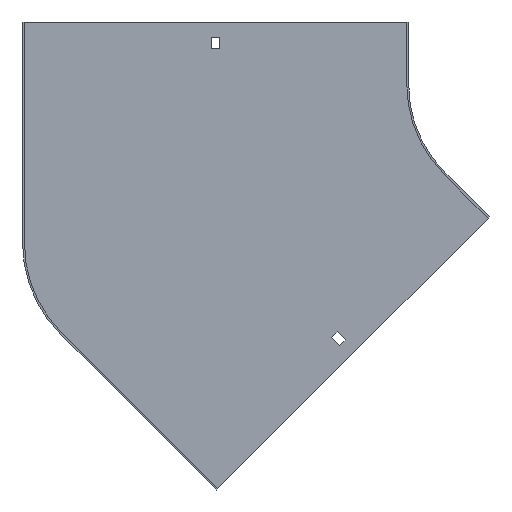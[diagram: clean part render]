
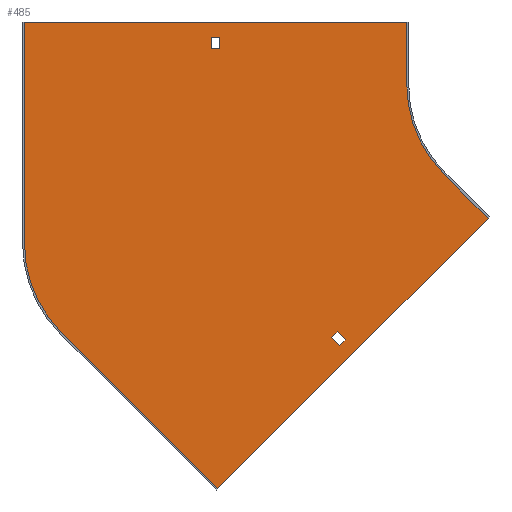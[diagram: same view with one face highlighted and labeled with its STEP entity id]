
A CAD part, front view. The second image highlights one B-rep face of the part: STEP entity #485.
In plain terms, the highlighted planar face has unit normal (0, -1, 0).
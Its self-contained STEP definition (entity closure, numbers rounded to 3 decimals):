
#9 = LINE ( 'NONE', #280, #490 ) ;
#13 = EDGE_CURVE ( 'NONE', #392, #725, #205, .T. ) ;
#24 = DIRECTION ( 'NONE',  ( 1., 0., 0. ) ) ;
#31 = VECTOR ( 'NONE', #724, 1000. ) ;
#32 = CARTESIAN_POINT ( 'NONE',  ( -248.75, -1.5, 38. ) ) ;
#33 = VECTOR ( 'NONE', #573, 1000. ) ;
#35 = ORIENTED_EDGE ( 'NONE', *, *, #515, .F. ) ;
#38 = ORIENTED_EDGE ( 'NONE', *, *, #849, .F. ) ;
#52 = EDGE_CURVE ( 'NONE', #468, #92, #843, .T. ) ;
#55 = CARTESIAN_POINT ( 'NONE',  ( -34.295, -1.5, -105.005 ) ) ;
#66 = ORIENTED_EDGE ( 'NONE', *, *, #636, .T. ) ;
#70 = VERTEX_POINT ( 'NONE', #835 ) ;
#73 = VECTOR ( 'NONE', #450, 1000. ) ;
#78 = CARTESIAN_POINT ( 'NONE',  ( -159.983, -1.5, -200.995 ) ) ;
#92 = VERTEX_POINT ( 'NONE', #32 ) ;
#93 = CARTESIAN_POINT ( 'NONE',  ( -255.25, -1.5, 38. ) ) ;
#97 = VERTEX_POINT ( 'NONE', #495 ) ;
#101 = CARTESIAN_POINT ( 'NONE',  ( 0., -1.5, 38. ) ) ;
#123 = ORIENTED_EDGE ( 'NONE', *, *, #52, .T. ) ;
#125 = DIRECTION ( 'NONE',  ( 0., -1., 0. ) ) ;
#129 = DIRECTION ( 'NONE',  ( 0., 0., -1. ) ) ;
#130 = CARTESIAN_POINT ( 'NONE',  ( -35.355, -1.5, -106.066 ) ) ;
#134 = CARTESIAN_POINT ( 'NONE',  ( 0., -1.5, 29. ) ) ;
#143 = CARTESIAN_POINT ( 'NONE',  ( -175.893, -1.5, -175.893 ) ) ;
#153 = DIRECTION ( 'NONE',  ( 0., 0., -1. ) ) ;
#154 = LINE ( 'NONE', #143, #162 ) ;
#159 = ORIENTED_EDGE ( 'NONE', *, *, #412, .T. ) ;
#160 = LINE ( 'NONE', #820, #287 ) ;
#162 = VECTOR ( 'NONE', #406, 1000. ) ;
#163 = CARTESIAN_POINT ( 'NONE',  ( -255.25, -1.5, 0. ) ) ;
#165 = FACE_BOUND ( 'NONE', #528, .T. ) ;
#167 = ORIENTED_EDGE ( 'NONE', *, *, #855, .F. ) ;
#168 = CARTESIAN_POINT ( 'NONE',  ( 0., -1.5, 0. ) ) ;
#170 = EDGE_CURVE ( 'NONE', #269, #251, #846, .T. ) ;
#176 = DIRECTION ( 'NONE',  ( 0., 0., -1. ) ) ;
#181 = DIRECTION ( 'NONE',  ( 0., 1., 0. ) ) ;
#185 = CARTESIAN_POINT ( 'NONE',  ( -248.75, -1.5, 29. ) ) ;
#196 = ORIENTED_EDGE ( 'NONE', *, *, #363, .F. ) ;
#202 = CARTESIAN_POINT ( 'NONE',  ( -70.711, -1.5, -70.711 ) ) ;
#205 = CIRCLE ( 'NONE', #854, 100. ) ;
#208 = CARTESIAN_POINT ( 'NONE',  ( -255.25, -1.5, 29. ) ) ;
#216 = VERTEX_POINT ( 'NONE', #597 ) ;
#219 = VERTEX_POINT ( 'NONE', #662 ) ;
#235 = CARTESIAN_POINT ( 'NONE',  ( -180.489, -1.5, -180.489 ) ) ;
#236 = EDGE_CURVE ( 'NONE', #251, #216, #730, .T. ) ;
#239 = EDGE_CURVE ( 'NONE', #219, #279, #517, .T. ) ;
#243 = ORIENTED_EDGE ( 'NONE', *, *, #821, .F. ) ;
#251 = VERTEX_POINT ( 'NONE', #130 ) ;
#266 = LINE ( 'NONE', #134, #358 ) ;
#267 = DIRECTION ( 'NONE',  ( 0., 0., 1. ) ) ;
#269 = VERTEX_POINT ( 'NONE', #272 ) ;
#272 = CARTESIAN_POINT ( 'NONE',  ( -70.711, -1.5, -70.711 ) ) ;
#279 = VERTEX_POINT ( 'NONE', #679 ) ;
#280 = CARTESIAN_POINT ( 'NONE',  ( -248.75, -1.5, 0. ) ) ;
#287 = VECTOR ( 'NONE', #24, 1000. ) ;
#307 = EDGE_LOOP ( 'NONE', ( #123, #470, #66, #159 ) ) ;
#313 = VECTOR ( 'NONE', #676, 1000. ) ;
#318 = LINE ( 'NONE', #389, #715 ) ;
#323 = DIRECTION ( 'NONE',  ( -0.707, 0., -0.707 ) ) ;
#324 = ORIENTED_EDGE ( 'NONE', *, *, #13, .F. ) ;
#340 = ORIENTED_EDGE ( 'NONE', *, *, #416, .F. ) ;
#343 = CARTESIAN_POINT ( 'NONE',  ( 20.506, -1.5, -20.506 ) ) ;
#354 = EDGE_CURVE ( 'NONE', #97, #70, #154, .T. ) ;
#358 = VECTOR ( 'NONE', #399, 1000. ) ;
#363 = EDGE_CURVE ( 'NONE', #70, #654, #683, .T. ) ;
#374 = VERTEX_POINT ( 'NONE', #617 ) ;
#384 = DIRECTION ( 'NONE',  ( -0.707, 0., 0.707 ) ) ;
#389 = CARTESIAN_POINT ( 'NONE',  ( -250.316, -1.5, -321.026 ) ) ;
#392 = VERTEX_POINT ( 'NONE', #734 ) ;
#395 = LINE ( 'NONE', #455, #744 ) ;
#397 = AXIS2_PLACEMENT_3D ( 'NONE', #784, #125, #129 ) ;
#399 = DIRECTION ( 'NONE',  ( -1., 0., 0. ) ) ;
#401 = ORIENTED_EDGE ( 'NONE', *, *, #786, .F. ) ;
#406 = DIRECTION ( 'NONE',  ( -0.707, 0., 0.707 ) ) ;
#412 = EDGE_CURVE ( 'NONE', #650, #468, #754, .T. ) ;
#416 = EDGE_CURVE ( 'NONE', #654, #374, #494, .T. ) ;
#417 = EDGE_LOOP ( 'NONE', ( #401, #167, #324, #243, #487, #768, #38, #847 ) ) ;
#424 = VECTOR ( 'NONE', #665, 1000. ) ;
#429 = DIRECTION ( 'NONE',  ( 0., -1., 0. ) ) ;
#446 = VECTOR ( 'NONE', #566, 1000. ) ;
#450 = DIRECTION ( 'NONE',  ( 0.707, 0., -0.707 ) ) ;
#455 = CARTESIAN_POINT ( 'NONE',  ( -404., -1.5, -125.921 ) ) ;
#460 = CARTESIAN_POINT ( 'NONE',  ( -100., -1.5, 50. ) ) ;
#468 = VERTEX_POINT ( 'NONE', #93 ) ;
#470 = ORIENTED_EDGE ( 'NONE', *, *, #686, .T. ) ;
#485 = ADVANCED_FACE ( 'NONE', ( #165, #497, #837 ), #764, .T. ) ;
#487 = ORIENTED_EDGE ( 'NONE', *, *, #236, .F. ) ;
#490 = VECTOR ( 'NONE', #153, 1000. ) ;
#494 = LINE ( 'NONE', #235, #536 ) ;
#495 = CARTESIAN_POINT ( 'NONE',  ( -149.023, -1.5, -202.763 ) ) ;
#497 = FACE_OUTER_BOUND ( 'NONE', #417, .T. ) ;
#504 = DIRECTION ( 'NONE',  ( 0., 0., -1. ) ) ;
#508 = LINE ( 'NONE', #861, #424 ) ;
#515 = EDGE_CURVE ( 'NONE', #374, #97, #508, .T. ) ;
#517 = LINE ( 'NONE', #460, #31 ) ;
#528 = EDGE_LOOP ( 'NONE', ( #700, #35, #340, #196 ) ) ;
#536 = VECTOR ( 'NONE', #834, 1000. ) ;
#566 = DIRECTION ( 'NONE',  ( 1., 0., 0. ) ) ;
#573 = DIRECTION ( 'NONE',  ( 0., 0., 1. ) ) ;
#588 = CARTESIAN_POINT ( 'NONE',  ( -404., -1.5, 50. ) ) ;
#597 = CARTESIAN_POINT ( 'NONE',  ( -250.316, -1.5, -321.026 ) ) ;
#617 = CARTESIAN_POINT ( 'NONE',  ( -153.619, -1.5, -207.359 ) ) ;
#631 = AXIS2_PLACEMENT_3D ( 'NONE', #168, #429, #504 ) ;
#636 = EDGE_CURVE ( 'NONE', #823, #650, #266, .T. ) ;
#650 = VERTEX_POINT ( 'NONE', #208 ) ;
#654 = VERTEX_POINT ( 'NONE', #78 ) ;
#662 = CARTESIAN_POINT ( 'NONE',  ( -100., -1.5, 50. ) ) ;
#665 = DIRECTION ( 'NONE',  ( 0.707, 0., 0.707 ) ) ;
#676 = DIRECTION ( 'NONE',  ( -0.707, 0., -0.707 ) ) ;
#679 = CARTESIAN_POINT ( 'NONE',  ( -100., -1.5, 0. ) ) ;
#683 = LINE ( 'NONE', #343, #313 ) ;
#686 = EDGE_CURVE ( 'NONE', #92, #823, #9, .T. ) ;
#700 = ORIENTED_EDGE ( 'NONE', *, *, #354, .F. ) ;
#715 = VECTOR ( 'NONE', #384, 1000. ) ;
#724 = DIRECTION ( 'NONE',  ( 0., 0., -1. ) ) ;
#725 = VERTEX_POINT ( 'NONE', #746 ) ;
#730 = LINE ( 'NONE', #55, #810 ) ;
#734 = CARTESIAN_POINT ( 'NONE',  ( -374.711, -1.5, -196.632 ) ) ;
#744 = VECTOR ( 'NONE', #267, 1000. ) ;
#746 = CARTESIAN_POINT ( 'NONE',  ( -404., -1.5, -125.921 ) ) ;
#754 = LINE ( 'NONE', #163, #33 ) ;
#761 = CARTESIAN_POINT ( 'NONE',  ( -304., -1.5, -125.921 ) ) ;
#764 = PLANE ( 'NONE',  #631 ) ;
#768 = ORIENTED_EDGE ( 'NONE', *, *, #170, .F. ) ;
#784 = CARTESIAN_POINT ( 'NONE',  ( 0., -1.5, 0. ) ) ;
#786 = EDGE_CURVE ( 'NONE', #796, #219, #160, .T. ) ;
#796 = VERTEX_POINT ( 'NONE', #588 ) ;
#810 = VECTOR ( 'NONE', #323, 1000. ) ;
#820 = CARTESIAN_POINT ( 'NONE',  ( -405.5, -1.5, 50. ) ) ;
#821 = EDGE_CURVE ( 'NONE', #216, #392, #318, .T. ) ;
#823 = VERTEX_POINT ( 'NONE', #185 ) ;
#834 = DIRECTION ( 'NONE',  ( 0.707, 0., -0.707 ) ) ;
#835 = CARTESIAN_POINT ( 'NONE',  ( -155.387, -1.5, -196.399 ) ) ;
#837 = FACE_BOUND ( 'NONE', #307, .T. ) ;
#843 = LINE ( 'NONE', #101, #446 ) ;
#846 = LINE ( 'NONE', #202, #73 ) ;
#847 = ORIENTED_EDGE ( 'NONE', *, *, #239, .F. ) ;
#849 = EDGE_CURVE ( 'NONE', #279, #269, #857, .T. ) ;
#854 = AXIS2_PLACEMENT_3D ( 'NONE', #761, #181, #176 ) ;
#855 = EDGE_CURVE ( 'NONE', #725, #796, #395, .T. ) ;
#857 = CIRCLE ( 'NONE', #397, 100. ) ;
#861 = CARTESIAN_POINT ( 'NONE',  ( 26.87, -1.5, -26.87 ) ) ;
